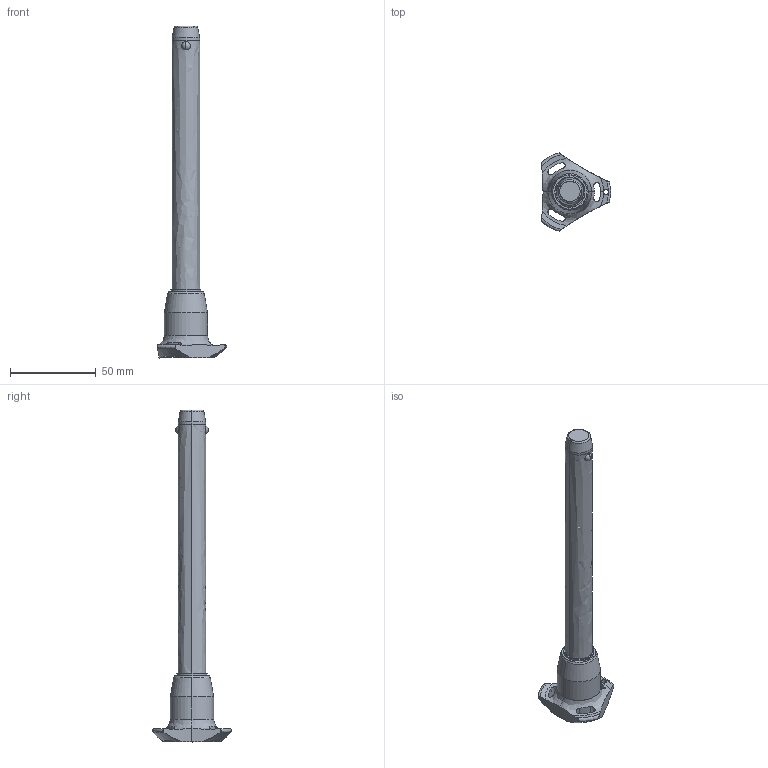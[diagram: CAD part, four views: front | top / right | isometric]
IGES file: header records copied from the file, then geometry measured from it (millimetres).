
Start section: SolidWorks IGES file using analytic representation for surfaces
Global section: file name: C:\Users\ianosborn\Desktop\QR1736_v2\QR1736_v2_20251115_IGES\QR1736.M16-140-T.igs; native system: SolidWorks 2019; preprocessor: SolidWorks 2019; author: IanOsborn; date: 251113.121005; units: millimetre
Bounding box: 40.5 x 45.88 x 193.7 mm (x, y, z)
Surface area: 13630.1 mm2 (no closed solid volume)
Topology: 0 solids, 0 shells, 68 faces, 1402 edges, 1398 vertices
Faces by surface type: revolution 52, bspline 16
